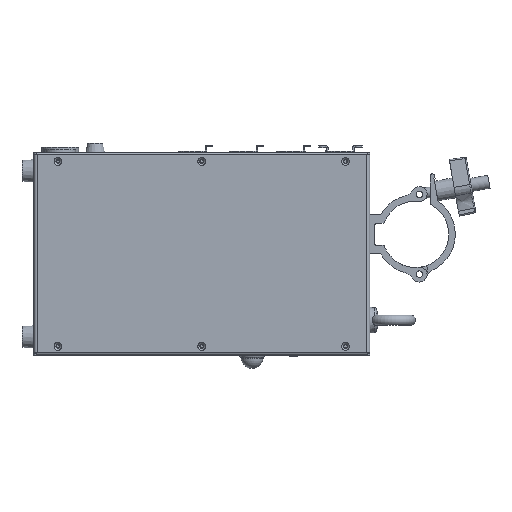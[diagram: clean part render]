
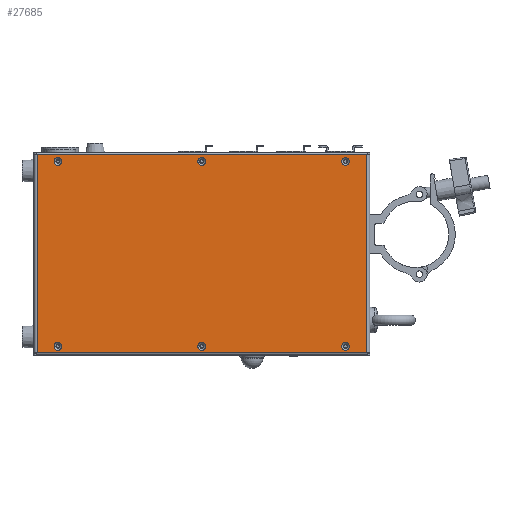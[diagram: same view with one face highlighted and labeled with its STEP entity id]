
A CAD part, left-side view. The second image highlights one B-rep face of the part: STEP entity #27685.
In plain terms, the highlighted planar face has unit normal (-1, 0, 0) as drawn and (0, 0, -1) by its records, which use the part's own axes.
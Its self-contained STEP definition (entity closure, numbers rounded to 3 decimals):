
#5254=LINE('',#45751,#7528);
#5263=LINE('',#45780,#7537);
#5265=LINE('',#45797,#7539);
#5266=LINE('',#45798,#7540);
#7528=VECTOR('',#37412,1000.);
#7537=VECTOR('',#37435,1000.);
#7539=VECTOR('',#37453,1000.);
#7540=VECTOR('',#37454,1000.);
#14139=ORIENTED_EDGE('',*,*,#17856,.T.);
#14140=ORIENTED_EDGE('',*,*,#17857,.T.);
#14141=ORIENTED_EDGE('',*,*,#17858,.T.);
#14142=ORIENTED_EDGE('',*,*,#17859,.T.);
#14143=ORIENTED_EDGE('',*,*,#17860,.T.);
#14144=ORIENTED_EDGE('',*,*,#17861,.T.);
#14145=ORIENTED_EDGE('',*,*,#17838,.F.);
#14146=ORIENTED_EDGE('',*,*,#17862,.T.);
#14147=ORIENTED_EDGE('',*,*,#17853,.F.);
#14148=ORIENTED_EDGE('',*,*,#17863,.T.);
#17838=EDGE_CURVE('',#20306,#20307,#5254,.T.);
#17853=EDGE_CURVE('',#20319,#20320,#5263,.T.);
#17856=EDGE_CURVE('',#20321,#20321,#21407,.T.);
#17857=EDGE_CURVE('',#20322,#20322,#21408,.T.);
#17858=EDGE_CURVE('',#20323,#20323,#21409,.T.);
#17859=EDGE_CURVE('',#20324,#20324,#21410,.T.);
#17860=EDGE_CURVE('',#20325,#20325,#21411,.T.);
#17861=EDGE_CURVE('',#20326,#20326,#21412,.T.);
#17862=EDGE_CURVE('',#20306,#20320,#5265,.T.);
#17863=EDGE_CURVE('',#20319,#20307,#5266,.T.);
#20306=VERTEX_POINT('',#45750);
#20307=VERTEX_POINT('',#45752);
#20319=VERTEX_POINT('',#45779);
#20320=VERTEX_POINT('',#45781);
#20321=VERTEX_POINT('',#45786);
#20322=VERTEX_POINT('',#45788);
#20323=VERTEX_POINT('',#45790);
#20324=VERTEX_POINT('',#45792);
#20325=VERTEX_POINT('',#45794);
#20326=VERTEX_POINT('',#45796);
#21407=CIRCLE('',#30265,3.);
#21408=CIRCLE('',#30266,3.);
#21409=CIRCLE('',#30267,3.);
#21410=CIRCLE('',#30268,3.);
#21411=CIRCLE('',#30269,3.);
#21412=CIRCLE('',#30270,3.);
#23280=EDGE_LOOP('',(#14139));
#23281=EDGE_LOOP('',(#14140));
#23282=EDGE_LOOP('',(#14141));
#23283=EDGE_LOOP('',(#14142));
#23284=EDGE_LOOP('',(#14143));
#23285=EDGE_LOOP('',(#14144));
#23286=EDGE_LOOP('',(#14145,#14146,#14147,#14148));
#25269=FACE_BOUND('',#23280,.T.);
#25270=FACE_BOUND('',#23281,.T.);
#25271=FACE_BOUND('',#23282,.T.);
#25272=FACE_BOUND('',#23283,.T.);
#25273=FACE_BOUND('',#23284,.T.);
#25274=FACE_BOUND('',#23285,.T.);
#25275=FACE_BOUND('',#23286,.T.);
#26315=PLANE('',#30264);
#27685=ADVANCED_FACE('',(#25269,#25270,#25271,#25272,#25273,#25274,#25275),
#26315,.F.);
#30264=AXIS2_PLACEMENT_3D('',#45784,#37439,#37440);
#30265=AXIS2_PLACEMENT_3D('',#45785,#37441,#37442);
#30266=AXIS2_PLACEMENT_3D('',#45787,#37443,#37444);
#30267=AXIS2_PLACEMENT_3D('',#45789,#37445,#37446);
#30268=AXIS2_PLACEMENT_3D('',#45791,#37447,#37448);
#30269=AXIS2_PLACEMENT_3D('',#45793,#37449,#37450);
#30270=AXIS2_PLACEMENT_3D('',#45795,#37451,#37452);
#37412=DIRECTION('',(0.,1.,0.));
#37435=DIRECTION('',(0.,-1.,0.));
#37439=DIRECTION('',(0.,0.,1.));
#37440=DIRECTION('',(1.,0.,0.));
#37441=DIRECTION('',(0.,0.,1.));
#37442=DIRECTION('',(0.,-1.,0.));
#37443=DIRECTION('',(0.,0.,1.));
#37444=DIRECTION('',(0.,-1.,0.));
#37445=DIRECTION('',(0.,0.,1.));
#37446=DIRECTION('',(0.,-1.,0.));
#37447=DIRECTION('',(0.,0.,1.));
#37448=DIRECTION('',(0.,-1.,0.));
#37449=DIRECTION('',(0.,0.,1.));
#37450=DIRECTION('',(0.,-1.,0.));
#37451=DIRECTION('',(0.,0.,1.));
#37452=DIRECTION('',(0.,-1.,0.));
#37453=DIRECTION('',(-1.,0.,0.));
#37454=DIRECTION('',(1.,0.,0.));
#45750=CARTESIAN_POINT('',(75.75,-126.,-1.5));
#45751=CARTESIAN_POINT('',(75.75,-128.5,-1.5));
#45752=CARTESIAN_POINT('',(75.75,126.,-1.5));
#45779=CARTESIAN_POINT('',(-75.75,126.,-1.5));
#45780=CARTESIAN_POINT('',(-75.75,-128.5,-1.5));
#45781=CARTESIAN_POINT('',(-75.75,-126.,-1.5));
#45784=CARTESIAN_POINT('',(0.,0.,-1.5));
#45785=CARTESIAN_POINT('',(-70.75,110.,-1.5));
#45786=CARTESIAN_POINT('',(-70.75,107.,-1.5));
#45787=CARTESIAN_POINT('',(-70.75,0.,-1.5));
#45788=CARTESIAN_POINT('',(-70.75,-3.,-1.5));
#45789=CARTESIAN_POINT('',(-70.75,-110.,-1.5));
#45790=CARTESIAN_POINT('',(-70.75,-113.,-1.5));
#45791=CARTESIAN_POINT('',(70.75,110.,-1.5));
#45792=CARTESIAN_POINT('',(70.75,107.,-1.5));
#45793=CARTESIAN_POINT('',(70.75,0.,-1.5));
#45794=CARTESIAN_POINT('',(70.75,-3.,-1.5));
#45795=CARTESIAN_POINT('',(70.75,-110.,-1.5));
#45796=CARTESIAN_POINT('',(70.75,-113.,-1.5));
#45797=CARTESIAN_POINT('',(75.75,-126.,-1.5));
#45798=CARTESIAN_POINT('',(-75.75,126.,-1.5));
